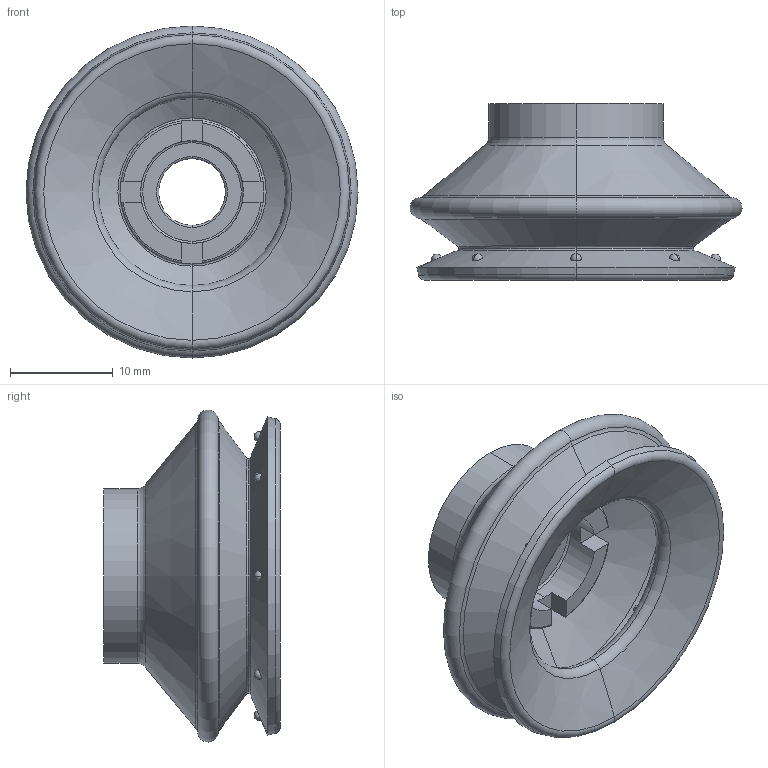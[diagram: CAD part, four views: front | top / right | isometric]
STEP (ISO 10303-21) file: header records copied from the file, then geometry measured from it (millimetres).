
FILE_DESCRIPTION (( 'STEP AP203' ), '1' );
FILE_NAME ('97C_30PU_A.STEP', '2018-05-18T09:28:53', ( '' ), ( '' ), 'SwSTEP 2.0', 'SolidWorks 2016', '' );
FILE_SCHEMA (( 'CONFIG_CONTROL_DESIGN' ));
Length unit declared in the file: millimetre
Products named in the file (1): 97C_30PU_A
Bounding box: 32.33 x 17.2 x 32.33 mm (x, y, z)
Volume: 3975.9 mm3; surface area: 4287 mm2
Topology: 1 solids, 1 shells, 123 faces, 320 edges, 196 vertices
Faces by surface type: sphere 48, torus 32, plane 19, cone 14, cylinder 10
Entity records: 3335 total; most frequent: CARTESIAN_POINT 824, DIRECTION 556, ORIENTED_EDGE 480, AXIS2_PLACEMENT_3D 248, EDGE_CURVE 240, VERTEX_POINT 148, CIRCLE 140, EDGE_LOOP 122
